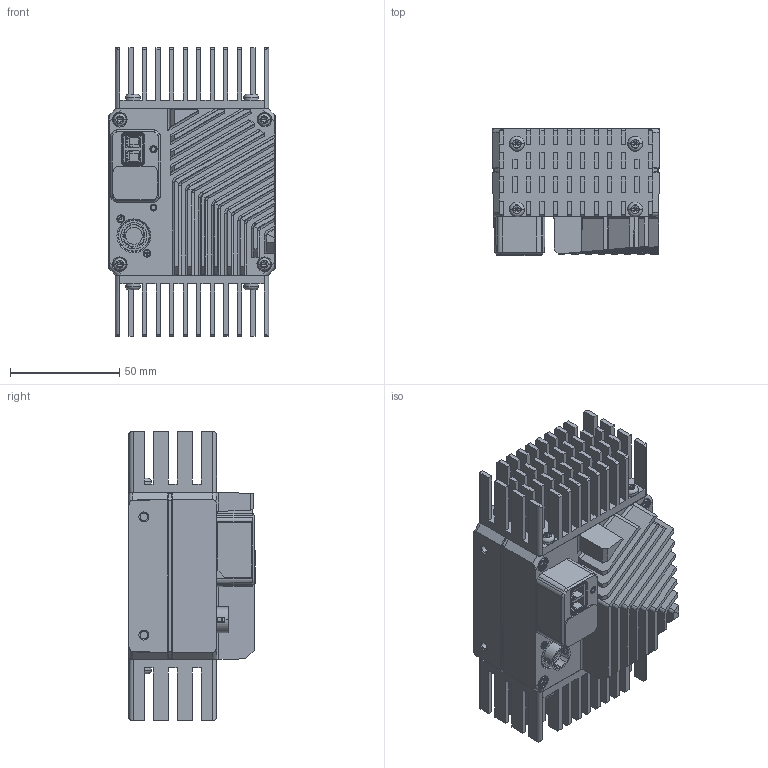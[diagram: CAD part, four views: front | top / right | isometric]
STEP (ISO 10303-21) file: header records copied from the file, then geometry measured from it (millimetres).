
FILE_DESCRIPTION((''),'2;1');
FILE_NAME('MV-CL082-91F1M','2023-12-05T15:40:42',('zhangfeixiang8'),(''),'CREO PARAMETRIC BY PTC INC, 2020044','CREO PARAMETRIC BY PTC INC, 2020044','');
FILE_SCHEMA(('CONFIG_CONTROL_DESIGN'));
Products named in the file (1): MV-CL082-91F1M
Bounding box: 76 x 58 x 132 mm (x, y, z)
Volume: 303605.9 mm3; surface area: 114282.9 mm2
Topology: 12 solids, 79 shells, 3169 faces, 9196 edges, 6095 vertices
Faces by surface type: plane 1860, cylinder 884, cone 194, torus 121, bspline 62, extrusion 48
Entity records: 130078 total; most frequent: CARTESIAN_POINT 46440, ORIENTED_EDGE 17962, DIRECTION 16641, EDGE_CURVE 9179, VERTEX_POINT 6095, VECTOR 5607, LINE 5559, AXIS2_PLACEMENT_3D 5517
